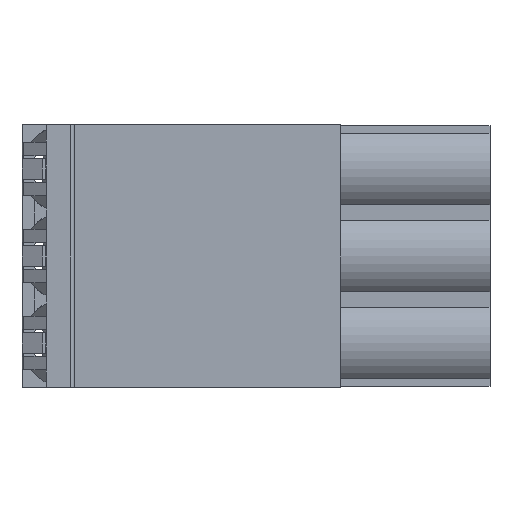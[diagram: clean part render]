
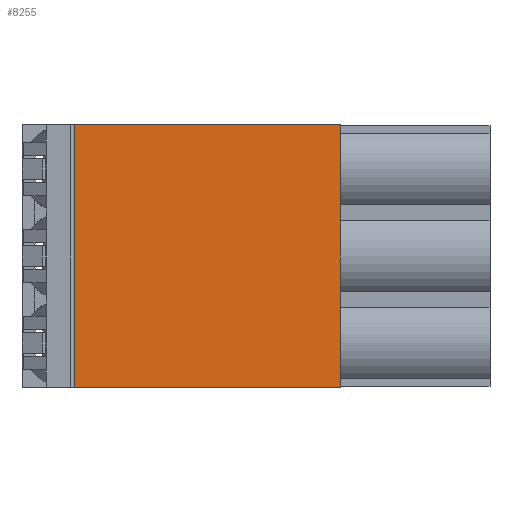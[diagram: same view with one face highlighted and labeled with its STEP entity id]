
A CAD part, front view. The second image highlights one B-rep face of the part: STEP entity #8255.
In plain terms, the highlighted planar face has unit normal (0, -1, 0).
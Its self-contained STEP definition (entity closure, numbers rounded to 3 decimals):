
#715=DIRECTION('',(0.,0.,-1.));
#716=VECTOR('',#715,15.1);
#717=CARTESIAN_POINT('',(18.303,1.,-5.));
#718=LINE('',#717,#716);
#719=DIRECTION('',(-1.,0.,0.));
#720=VECTOR('',#719,15.3);
#721=CARTESIAN_POINT('',(18.303,1.,-20.1));
#722=LINE('',#721,#720);
#723=DIRECTION('',(0.,0.,1.));
#724=VECTOR('',#723,15.1);
#725=CARTESIAN_POINT('',(3.003,1.,-20.1));
#726=LINE('',#725,#724);
#727=DIRECTION('',(1.,0.,0.));
#728=VECTOR('',#727,15.3);
#729=CARTESIAN_POINT('',(3.003,1.,-5.));
#730=LINE('',#729,#728);
#5780=CARTESIAN_POINT('',(3.003,1.,-20.1));
#5781=CARTESIAN_POINT('',(3.003,1.,-5.));
#5782=VERTEX_POINT('',#5780);
#5783=VERTEX_POINT('',#5781);
#5784=CARTESIAN_POINT('',(18.303,1.,-5.));
#5785=CARTESIAN_POINT('',(18.303,1.,-20.1));
#5786=VERTEX_POINT('',#5784);
#5787=VERTEX_POINT('',#5785);
#8241=CARTESIAN_POINT('',(10.653,1.,-20.05));
#8242=DIRECTION('',(0.,1.,0.));
#8243=DIRECTION('',(1.,0.,0.));
#8244=AXIS2_PLACEMENT_3D('',#8241,#8242,#8243);
#8245=PLANE('',#8244);
#8247=ORIENTED_EDGE('',*,*,#8246,.T.);
#8249=ORIENTED_EDGE('',*,*,#8248,.T.);
#8250=ORIENTED_EDGE('',*,*,#8231,.T.);
#8252=ORIENTED_EDGE('',*,*,#8251,.T.);
#8253=EDGE_LOOP('',(#8247,#8249,#8250,#8252));
#8254=FACE_OUTER_BOUND('',#8253,.F.);
#8255=ADVANCED_FACE('',(#8254),#8245,.F.);
#8231=EDGE_CURVE('',#5782,#5783,#726,.T.);
#8246=EDGE_CURVE('',#5786,#5787,#718,.T.);
#8248=EDGE_CURVE('',#5787,#5782,#722,.T.);
#8251=EDGE_CURVE('',#5783,#5786,#730,.T.);
